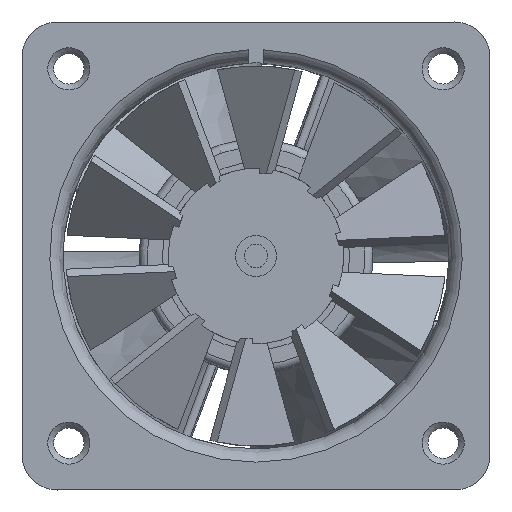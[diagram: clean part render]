
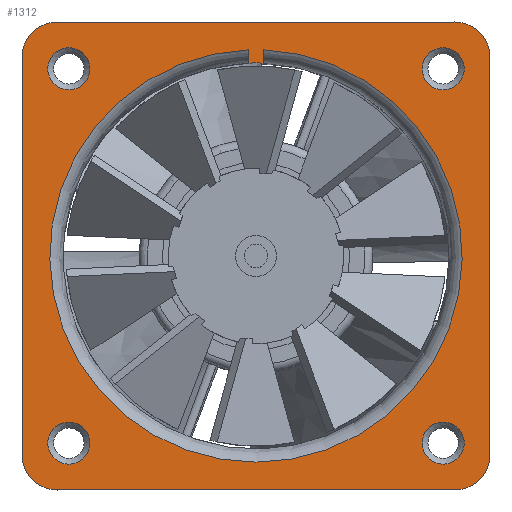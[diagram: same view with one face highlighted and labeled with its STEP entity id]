
A CAD part, top view. The second image highlights one B-rep face of the part: STEP entity #1312.
In plain terms, the highlighted planar face has unit normal (0, 0, 1).
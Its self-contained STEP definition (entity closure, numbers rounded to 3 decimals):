
#631=LINE('',#7686,#875);
#632=LINE('',#7690,#876);
#633=LINE('',#7699,#877);
#634=LINE('',#7704,#878);
#635=LINE('',#7708,#879);
#636=LINE('',#7712,#880);
#875=VECTOR('',#4692,1.);
#876=VECTOR('',#4695,1.);
#877=VECTOR('',#4704,1.);
#878=VECTOR('',#4707,1.);
#879=VECTOR('',#4710,1.);
#880=VECTOR('',#4713,1.);
#1132=PLANE('',#4224);
#1312=ADVANCED_FACE('',(#1589,#1590,#1591,#1592,#1593,#1594),#1132,.T.);
#1589=FACE_BOUND('',#1768,.T.);
#1590=FACE_BOUND('',#1769,.T.);
#1591=FACE_BOUND('',#1770,.T.);
#1592=FACE_BOUND('',#1771,.T.);
#1593=FACE_BOUND('',#1772,.T.);
#1594=FACE_BOUND('',#1773,.T.);
#1768=EDGE_LOOP('',(#2259,#2260,#2261,#2262));
#1769=EDGE_LOOP('',(#2263));
#1770=EDGE_LOOP('',(#2264));
#1771=EDGE_LOOP('',(#2265));
#1772=EDGE_LOOP('',(#2266));
#1773=EDGE_LOOP('',(#2267,#2268,#2269,#2270,#2271,#2272,#2273,#2274));
#2259=ORIENTED_EDGE('',*,*,#3641,.F.);
#2260=ORIENTED_EDGE('',*,*,#3644,.T.);
#2261=ORIENTED_EDGE('',*,*,#3645,.T.);
#2262=ORIENTED_EDGE('',*,*,#3646,.T.);
#2263=ORIENTED_EDGE('',*,*,#3647,.T.);
#2264=ORIENTED_EDGE('',*,*,#3648,.T.);
#2265=ORIENTED_EDGE('',*,*,#3649,.T.);
#2266=ORIENTED_EDGE('',*,*,#3650,.T.);
#2267=ORIENTED_EDGE('',*,*,#3651,.T.);
#2268=ORIENTED_EDGE('',*,*,#3652,.T.);
#2269=ORIENTED_EDGE('',*,*,#3653,.T.);
#2270=ORIENTED_EDGE('',*,*,#3654,.T.);
#2271=ORIENTED_EDGE('',*,*,#3655,.T.);
#2272=ORIENTED_EDGE('',*,*,#3656,.T.);
#2273=ORIENTED_EDGE('',*,*,#3657,.T.);
#2274=ORIENTED_EDGE('',*,*,#3658,.T.);
#3213=VERTEX_POINT('',#7666);
#3215=VERTEX_POINT('',#7669);
#3217=VERTEX_POINT('',#7687);
#3218=VERTEX_POINT('',#7689);
#3219=VERTEX_POINT('',#7692);
#3220=VERTEX_POINT('',#7694);
#3221=VERTEX_POINT('',#7696);
#3222=VERTEX_POINT('',#7698);
#3223=VERTEX_POINT('',#7700);
#3224=VERTEX_POINT('',#7701);
#3225=VERTEX_POINT('',#7703);
#3226=VERTEX_POINT('',#7705);
#3227=VERTEX_POINT('',#7707);
#3228=VERTEX_POINT('',#7709);
#3229=VERTEX_POINT('',#7711);
#3230=VERTEX_POINT('',#7713);
#3641=EDGE_CURVE('',#3213,#3215,#4067,.T.);
#3644=EDGE_CURVE('',#3213,#3217,#631,.T.);
#3645=EDGE_CURVE('',#3217,#3218,#4069,.T.);
#3646=EDGE_CURVE('',#3218,#3215,#632,.T.);
#3647=EDGE_CURVE('',#3219,#3219,#4070,.T.);
#3648=EDGE_CURVE('',#3220,#3220,#4071,.T.);
#3649=EDGE_CURVE('',#3221,#3221,#4072,.T.);
#3650=EDGE_CURVE('',#3222,#3222,#4073,.T.);
#3651=EDGE_CURVE('',#3223,#3224,#633,.T.);
#3652=EDGE_CURVE('',#3224,#3225,#4074,.T.);
#3653=EDGE_CURVE('',#3225,#3226,#634,.T.);
#3654=EDGE_CURVE('',#3226,#3227,#4075,.T.);
#3655=EDGE_CURVE('',#3227,#3228,#635,.T.);
#3656=EDGE_CURVE('',#3228,#3229,#4076,.T.);
#3657=EDGE_CURVE('',#3229,#3230,#636,.T.);
#3658=EDGE_CURVE('',#3230,#3223,#4077,.T.);
#4067=CIRCLE('',#4212,17.628);
#4069=CIRCLE('',#4215,16.5);
#4070=CIRCLE('',#4216,1.8);
#4071=CIRCLE('',#4217,1.8);
#4072=CIRCLE('',#4218,1.8);
#4073=CIRCLE('',#4219,1.8);
#4074=CIRCLE('',#4220,3.);
#4075=CIRCLE('',#4221,3.);
#4076=CIRCLE('',#4222,3.);
#4077=CIRCLE('',#4223,3.);
#4212=AXIS2_PLACEMENT_3D('',#7668,#4686,#4687);
#4215=AXIS2_PLACEMENT_3D('',#7688,#4693,#4694);
#4216=AXIS2_PLACEMENT_3D('',#7691,#4696,#4697);
#4217=AXIS2_PLACEMENT_3D('',#7693,#4698,#4699);
#4218=AXIS2_PLACEMENT_3D('',#7695,#4700,#4701);
#4219=AXIS2_PLACEMENT_3D('',#7697,#4702,#4703);
#4220=AXIS2_PLACEMENT_3D('',#7702,#4705,#4706);
#4221=AXIS2_PLACEMENT_3D('',#7706,#4708,#4709);
#4222=AXIS2_PLACEMENT_3D('',#7710,#4711,#4712);
#4223=AXIS2_PLACEMENT_3D('',#7714,#4714,#4715);
#4224=AXIS2_PLACEMENT_3D('',#7715,#4716,#4717);
#4686=DIRECTION('',(0.,0.,1.));
#4687=DIRECTION('',(1.,0.,0.));
#4692=DIRECTION('',(0.,-1.,0.));
#4693=DIRECTION('',(0.,0.,-1.));
#4694=DIRECTION('',(0.036,0.999,0.));
#4695=DIRECTION('',(0.,1.,0.));
#4696=DIRECTION('',(0.,0.,-1.));
#4697=DIRECTION('',(1.,0.,0.));
#4698=DIRECTION('',(0.,0.,-1.));
#4699=DIRECTION('',(1.,0.,0.));
#4700=DIRECTION('',(0.,0.,-1.));
#4701=DIRECTION('',(1.,0.,0.));
#4702=DIRECTION('',(0.,0.,-1.));
#4703=DIRECTION('',(1.,0.,0.));
#4704=DIRECTION('',(-1.,0.,0.));
#4705=DIRECTION('',(0.,0.,1.));
#4706=DIRECTION('',(-1.,0.,0.));
#4707=DIRECTION('',(0.,-1.,0.));
#4708=DIRECTION('',(0.,0.,1.));
#4709=DIRECTION('',(0.,-1.,0.));
#4710=DIRECTION('',(1.,0.,0.));
#4711=DIRECTION('',(0.,0.,1.));
#4712=DIRECTION('',(1.,0.,0.));
#4713=DIRECTION('',(0.,1.,0.));
#4714=DIRECTION('',(0.,0.,1.));
#4715=DIRECTION('',(1.,0.,0.));
#4716=DIRECTION('',(0.,0.,1.));
#4717=DIRECTION('',(-1.,0.,0.));
#7666=CARTESIAN_POINT('',(3.981,52.477,76.173));
#7668=CARTESIAN_POINT('',(4.581,34.859,76.173));
#7669=CARTESIAN_POINT('',(5.181,52.477,76.173));
#7686=CARTESIAN_POINT('',(3.981,53.85,76.173));
#7687=CARTESIAN_POINT('',(3.981,51.348,76.173));
#7688=CARTESIAN_POINT('',(4.581,34.859,76.173));
#7689=CARTESIAN_POINT('',(5.181,51.348,76.173));
#7690=CARTESIAN_POINT('',(5.181,51.348,76.173));
#7691=CARTESIAN_POINT('',(20.581,50.859,76.173));
#7692=CARTESIAN_POINT('',(22.381,50.859,76.173));
#7693=CARTESIAN_POINT('',(-11.419,18.859,76.173));
#7694=CARTESIAN_POINT('',(-9.619,18.859,76.173));
#7695=CARTESIAN_POINT('',(20.581,18.859,76.173));
#7696=CARTESIAN_POINT('',(22.381,18.859,76.173));
#7697=CARTESIAN_POINT('',(-11.419,50.859,76.173));
#7698=CARTESIAN_POINT('',(-9.619,50.859,76.173));
#7699=CARTESIAN_POINT('',(21.581,54.859,76.173));
#7700=CARTESIAN_POINT('',(21.581,54.859,76.173));
#7701=CARTESIAN_POINT('',(-12.419,54.859,76.173));
#7702=CARTESIAN_POINT('',(-12.419,51.859,76.173));
#7703=CARTESIAN_POINT('',(-15.419,51.859,76.173));
#7704=CARTESIAN_POINT('',(-15.419,51.859,76.173));
#7705=CARTESIAN_POINT('',(-15.419,17.859,76.173));
#7706=CARTESIAN_POINT('',(-12.419,17.859,76.173));
#7707=CARTESIAN_POINT('',(-12.419,14.859,76.173));
#7708=CARTESIAN_POINT('',(-12.419,14.859,76.173));
#7709=CARTESIAN_POINT('',(21.581,14.859,76.173));
#7710=CARTESIAN_POINT('',(21.581,17.859,76.173));
#7711=CARTESIAN_POINT('',(24.581,17.859,76.173));
#7712=CARTESIAN_POINT('',(24.581,17.859,76.173));
#7713=CARTESIAN_POINT('',(24.581,51.859,76.173));
#7714=CARTESIAN_POINT('',(21.581,51.859,76.173));
#7715=CARTESIAN_POINT('',(17.046,47.324,76.173));
